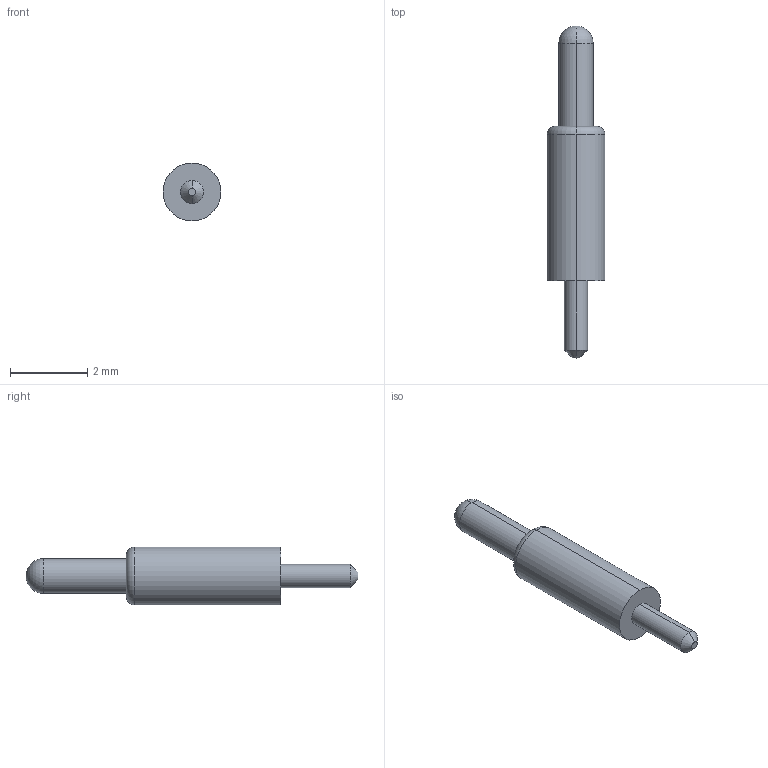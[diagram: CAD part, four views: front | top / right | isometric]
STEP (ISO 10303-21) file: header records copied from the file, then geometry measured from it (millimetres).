
FILE_DESCRIPTION((''),'2;1');
FILE_NAME('PRT0033','2023-05-26T11:59:41',('USER'),(''),'CREO PARAMETRIC BY PTC INC, 2020154','CREO PARAMETRIC BY PTC INC, 2020154','');
FILE_SCHEMA(('CONFIG_CONTROL_DESIGN'));
Length unit declared in the file: millimetre
Products named in the file (1): PRT0033
Bounding box: 1.5 x 8.6 x 1.5 mm (x, y, z)
Volume: 9.1 mm3; surface area: 32.2 mm2
Topology: 1 solids, 1 shells, 15 faces, 30 edges, 17 vertices
Faces by surface type: cylinder 6, plane 3, sphere 2, torus 2, cone 2
Entity records: 420 total; most frequent: DIRECTION 78, CARTESIAN_POINT 60, ORIENTED_EDGE 56, AXIS2_PLACEMENT_3D 35, EDGE_CURVE 28, CIRCLE 20, VERTEX_POINT 17, EDGE_LOOP 17
